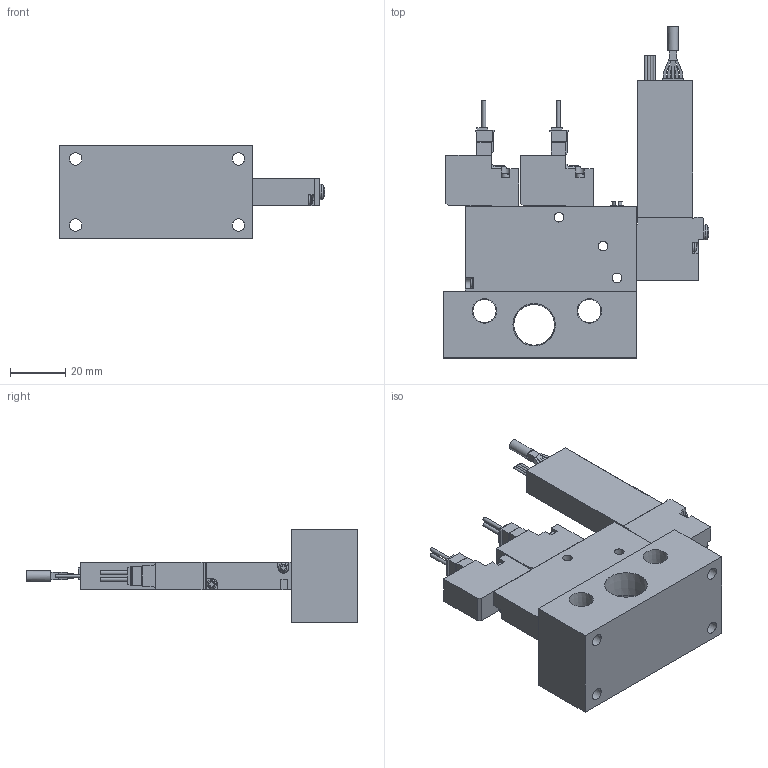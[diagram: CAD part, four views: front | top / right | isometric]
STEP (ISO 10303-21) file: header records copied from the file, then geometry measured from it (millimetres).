
FILE_DESCRIPTION(('STEP AP203'),'1');
FILE_NAME('BMPV42M10.10P.10PS5A(B)101.stp','2025-04-30T01:19:08',(' '),(' '),'Spatial InterOp 3D',' ',' ');
FILE_SCHEMA(('CONFIG_CONTROL_DESIGN'));
Length unit declared in the file: millimetre
Products named in the file (5): BMPV42M10.10P.10PS5A(B)101; VACUUM VALVE FUNCTION MPV42-A; VACUUM SENSOR MPV42-10; UNIT-MPV42; MPV42-M10R-1
Assembly tree (5 placements, depth 2):
  BMPV42M10.10P.10PS5A(B)101
    VACUUM VALVE FUNCTION MPV42-A  x2
    VACUUM SENSOR MPV42-10
    UNIT-MPV42
    MPV42-M10R-1
Bounding box: 96.35 x 120.3 x 34 mm (x, y, z)
Volume: 89091 mm3; surface area: 30101.1 mm2
Topology: 5 solids, 5 shells, 407 faces, 1095 edges, 726 vertices
Faces by surface type: plane 310, cylinder 77, cone 10, sphere 5, torus 5
Full cylindrical faces by diameter (mm): 0.9 x4, 1.4 x4, 1.8 x1, 2.2 x2, 3 x4, 3.5 x11, 3.8 x1, 4.134 x2, 4.5 x4, 5 x1, 5.5 x1, 8.441 x2, 14.744 x1
Entity records: 9631 total; most frequent: CARTESIAN_POINT 1876, DIRECTION 1523, ORIENTED_EDGE 1490, EDGE_CURVE 745, LINE 551, VECTOR 551, VERTEX_POINT 521, AXIS2_PLACEMENT_3D 486
